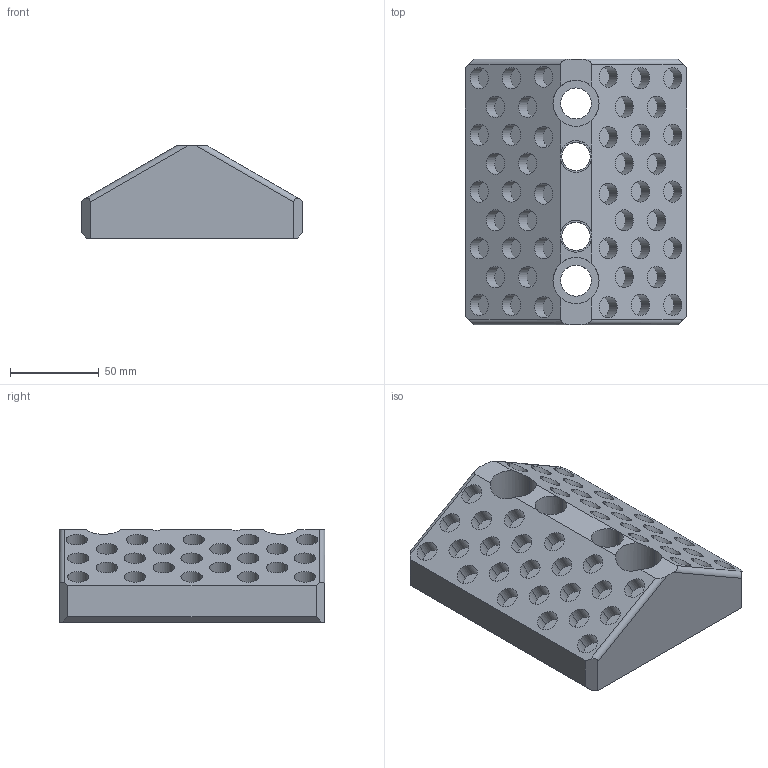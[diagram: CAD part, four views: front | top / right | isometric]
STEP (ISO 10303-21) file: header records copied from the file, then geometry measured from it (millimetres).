
FILE_DESCRIPTION (( 'STEP AP214' ), '1' );
FILE_NAME ('SW232-03-125x150.STEP', '2020-10-21T09:13:21', ( 'August' ), ( '' ), 'SwSTEP 2.0', 'SolidWorks 2018', '' );
FILE_SCHEMA (( 'AUTOMOTIVE_DESIGN' ));
Length unit declared in the file: millimetre
Products named in the file (1): SW232-03-125x150
Bounding box: 125 x 150 x 52 mm (x, y, z)
Volume: 603443.7 mm3; surface area: 82116.1 mm2
Topology: 1 solids, 1 shells, 180 faces, 396 edges, 264 vertices
Faces by surface type: cylinder 112, plane 68
Entity records: 6011 total; most frequent: CARTESIAN_POINT 1344, DIRECTION 942, ORIENTED_EDGE 792, EDGE_CURVE 396, AXIS2_PLACEMENT_3D 393, VERTEX_POINT 264, EDGE_LOOP 234, CIRCLE 212
